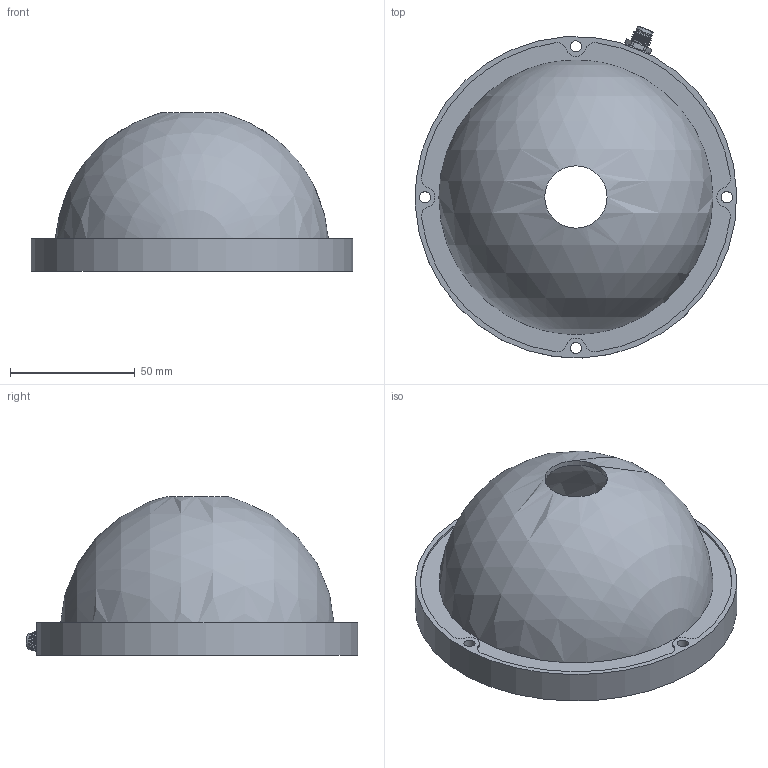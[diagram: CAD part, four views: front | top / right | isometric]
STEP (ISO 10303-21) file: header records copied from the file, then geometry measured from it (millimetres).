
FILE_DESCRIPTION (( 'STEP AP214' ), '1' );
FILE_NAME ('19039004-STP03v01 - DL75_R.STEP', '2019-09-30T16:05:19', ( '' ), ( '' ), 'SwSTEP 2.0', 'SolidWorks 2018', '' );
FILE_SCHEMA (( 'AUTOMOTIVE_DESIGN' ));
Length unit declared in the file: millimetre
Products named in the file (1): 19039004-STP03v01 - DL75_R
Bounding box: 128.88 x 133.13 x 63.56 mm (x, y, z)
Volume: 110710.7 mm3; surface area: 61368.8 mm2
Topology: 1 solids, 3 shells, 140 faces, 386 edges, 255 vertices
Faces by surface type: cylinder 53, bspline 37, plane 25, cone 16, sphere 5, torus 4
Full cylindrical faces by diameter (mm): 1 x3, 4.5 x4, 5.8 x1, 6.5 x1, 6.8 x1, 6.9 x1, 8 x2, 25 x1, 75 x1, 106 x1
Entity records: 14297 total; most frequent: CARTESIAN_POINT 10636, ORIENTED_EDGE 680, DIRECTION 502, EDGE_CURVE 340, VERTEX_POINT 240, AXIS2_PLACEMENT_3D 213, EDGE_LOOP 188, FACE_OUTER_BOUND 162
